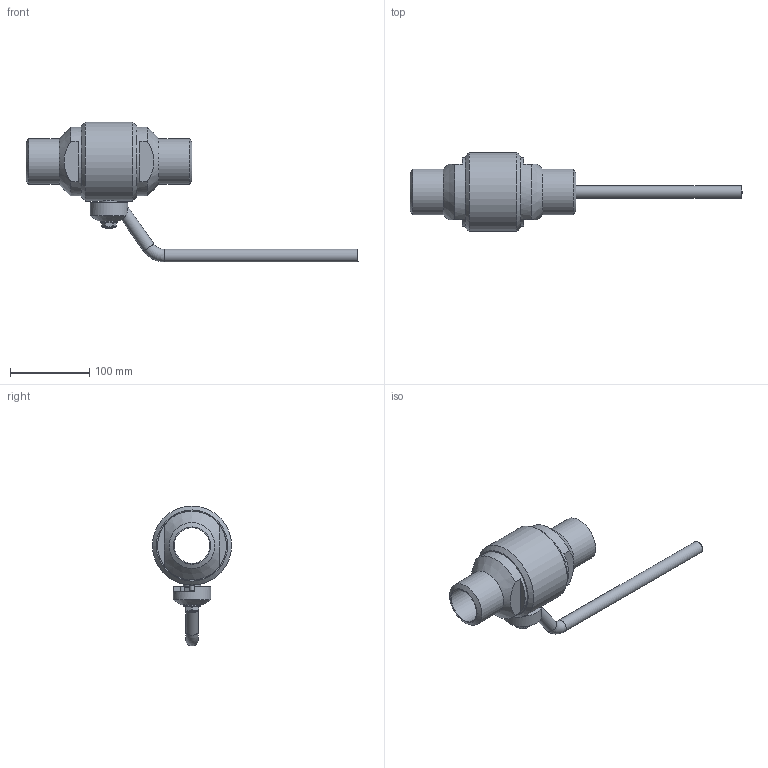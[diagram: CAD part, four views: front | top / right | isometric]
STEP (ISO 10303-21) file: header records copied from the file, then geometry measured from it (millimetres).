
FILE_DESCRIPTION(('STEP AP203'), '1');
FILE_NAME('ZARD 050.063.40.P.stp', '2013-12-06T08:00:36', ('Øèøêî'), ('Ýíåðïðåä ßðäîñ'), 'ASCON STEP Converter 1.3', 'Kompas 3D', '');
FILE_SCHEMA(('CONFIG_CONTROL_DESIGN','SUPPORT_RESOURCE_SCHEMA'));
Length unit declared in the file: millimetre
Products named in the file (1): 195
Bounding box: 420.01 x 100 x 177 mm (x, y, z)
Volume: 698675.8 mm3; surface area: 121842.2 mm2
Topology: 1 solids, 8 shells, 158 faces, 355 edges, 223 vertices
Faces by surface type: plane 80, cylinder 49, cone 21, torus 8
Full cylindrical faces by diameter (mm): 6 x2, 10 x2, 16 x3, 21.8 x1, 22 x2, 45 x2, 48 x1, 58 x2, 73.4 x1, 87 x2, 100 x1
Entity records: 6327 total; most frequent: CARTESIAN_POINT 2687, DIRECTION 764, ORIENTED_EDGE 710, EDGE_CURVE 355, AXIS2_PLACEMENT_3D 298, VERTEX_POINT 223, EDGE_LOOP 176, LINE 168
